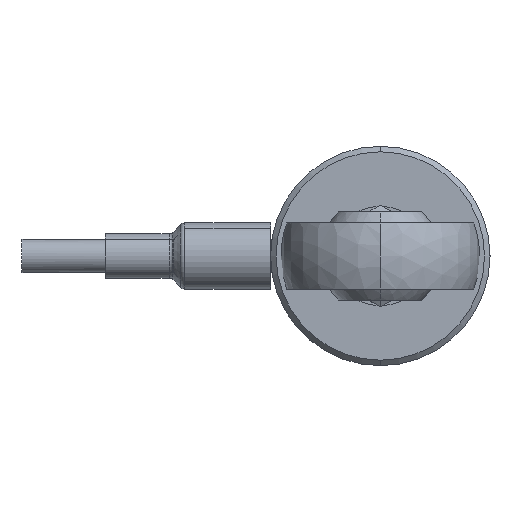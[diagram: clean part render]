
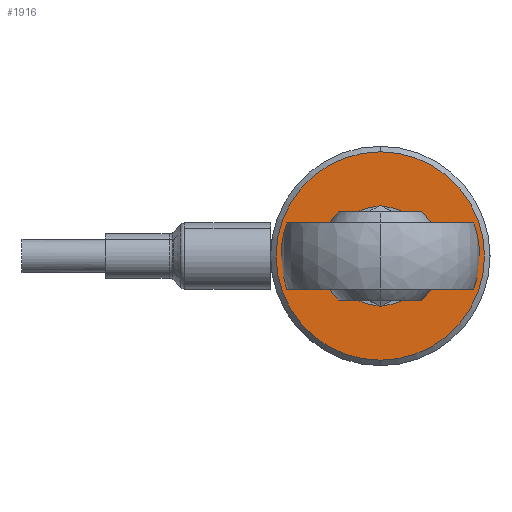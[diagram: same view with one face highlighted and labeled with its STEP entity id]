
A CAD part, left-side view. The second image highlights one B-rep face of the part: STEP entity #1916.
In plain terms, the highlighted planar face has unit normal (-1, 0, 0).
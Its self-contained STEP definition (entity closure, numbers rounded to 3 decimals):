
#134=PLANE('',#2290);
#841=ORIENTED_EDGE('',*,*,#1155,.T.);
#842=ORIENTED_EDGE('',*,*,#1158,.T.);
#843=ORIENTED_EDGE('',*,*,#1153,.F.);
#844=ORIENTED_EDGE('',*,*,#1159,.F.);
#1153=EDGE_CURVE('',#1332,#1331,#1479,.T.);
#1155=EDGE_CURVE('',#1335,#1333,#1480,.T.);
#1158=EDGE_CURVE('',#1333,#1335,#1482,.T.);
#1159=EDGE_CURVE('',#1331,#1332,#1483,.T.);
#1331=VERTEX_POINT('',#3819);
#1332=VERTEX_POINT('',#3821);
#1333=VERTEX_POINT('',#3825);
#1335=VERTEX_POINT('',#3828);
#1479=CIRCLE('',#2286,4.5);
#1480=CIRCLE('',#2288,9.45);
#1482=CIRCLE('',#2291,9.45);
#1483=CIRCLE('',#2292,4.5);
#1626=EDGE_LOOP('',(#841,#842));
#1627=EDGE_LOOP('',(#843,#844));
#1776=FACE_BOUND('',#1626,.T.);
#1777=FACE_BOUND('',#1627,.T.);
#1916=ADVANCED_FACE('',(#1776,#1777),#134,.F.);
#2286=AXIS2_PLACEMENT_3D('',#3822,#2866,#2867);
#2288=AXIS2_PLACEMENT_3D('',#3827,#2871,#2872);
#2290=AXIS2_PLACEMENT_3D('',#3832,#2876,#2877);
#2291=AXIS2_PLACEMENT_3D('',#3833,#2878,#2879);
#2292=AXIS2_PLACEMENT_3D('',#3834,#2880,#2881);
#2866=DIRECTION('',(-1.,0.,0.));
#2867=DIRECTION('',(0.,0.,-1.));
#2871=DIRECTION('',(-1.,0.,0.));
#2872=DIRECTION('',(0.,0.,-1.));
#2876=DIRECTION('',(1.,0.,0.));
#2877=DIRECTION('',(0.,0.,-1.));
#2878=DIRECTION('',(-1.,0.,0.));
#2879=DIRECTION('',(0.,0.,-1.));
#2880=DIRECTION('',(-1.,0.,0.));
#2881=DIRECTION('',(0.,0.,-1.));
#3819=CARTESIAN_POINT('',(0.,0.,4.5));
#3821=CARTESIAN_POINT('',(0.,0.,-4.5));
#3822=CARTESIAN_POINT('',(0.,0.,0.));
#3825=CARTESIAN_POINT('',(0.,0.,9.45));
#3827=CARTESIAN_POINT('',(0.,0.,0.));
#3828=CARTESIAN_POINT('',(0.,0.,-9.45));
#3832=CARTESIAN_POINT('',(0.,0.,0.));
#3833=CARTESIAN_POINT('',(0.,0.,0.));
#3834=CARTESIAN_POINT('',(0.,0.,0.));
